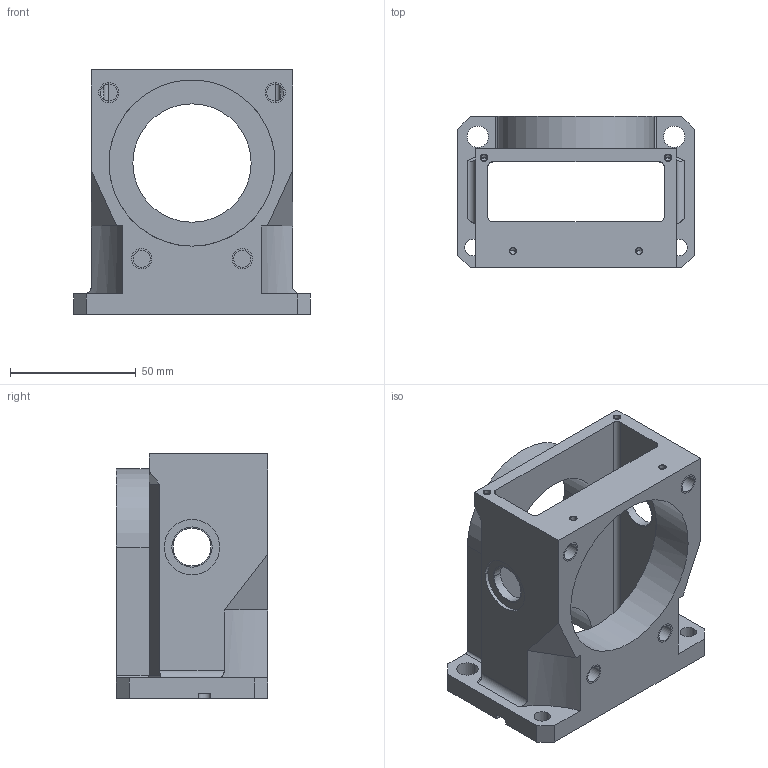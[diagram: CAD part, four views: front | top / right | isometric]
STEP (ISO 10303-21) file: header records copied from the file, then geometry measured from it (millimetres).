
FILE_DESCRIPTION((''),'2;1');
FILE_NAME('NV005A_0308-41-GEARBOX','2025-10-08T',('sfc-lishengjun'),(''),'PRO/ENGINEER BY PARAMETRIC TECHNOLOGY CORPORATION, 2014310','PRO/ENGINEER BY PARAMETRIC TECHNOLOGY CORPORATION, 2014310','');
FILE_SCHEMA(('CONFIG_CONTROL_DESIGN'));
Length unit declared in the file: millimetre
Products named in the file (1): NV005A_0308-41-GEARBOX
Bounding box: 94 x 60 x 97 mm (x, y, z)
Volume: 145251.8 mm3; surface area: 52979.2 mm2
Topology: 1 solids, 24 shells, 225 faces, 622 edges, 397 vertices
Faces by surface type: cylinder 128, plane 61, cone 36
Entity records: 7380 total; most frequent: CARTESIAN_POINT 1525, DIRECTION 1316, ORIENTED_EDGE 1076, EDGE_CURVE 588, AXIS2_PLACEMENT_3D 516, VERTEX_POINT 397, CIRCLE 290, VECTOR 284
